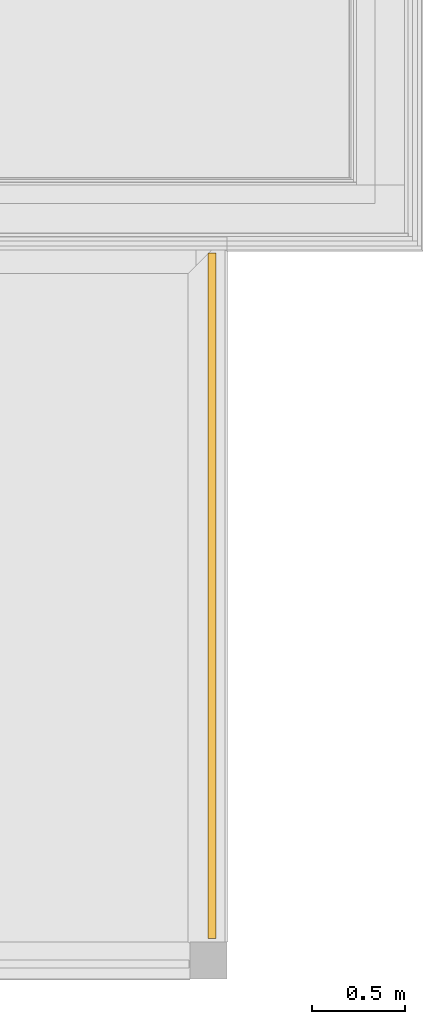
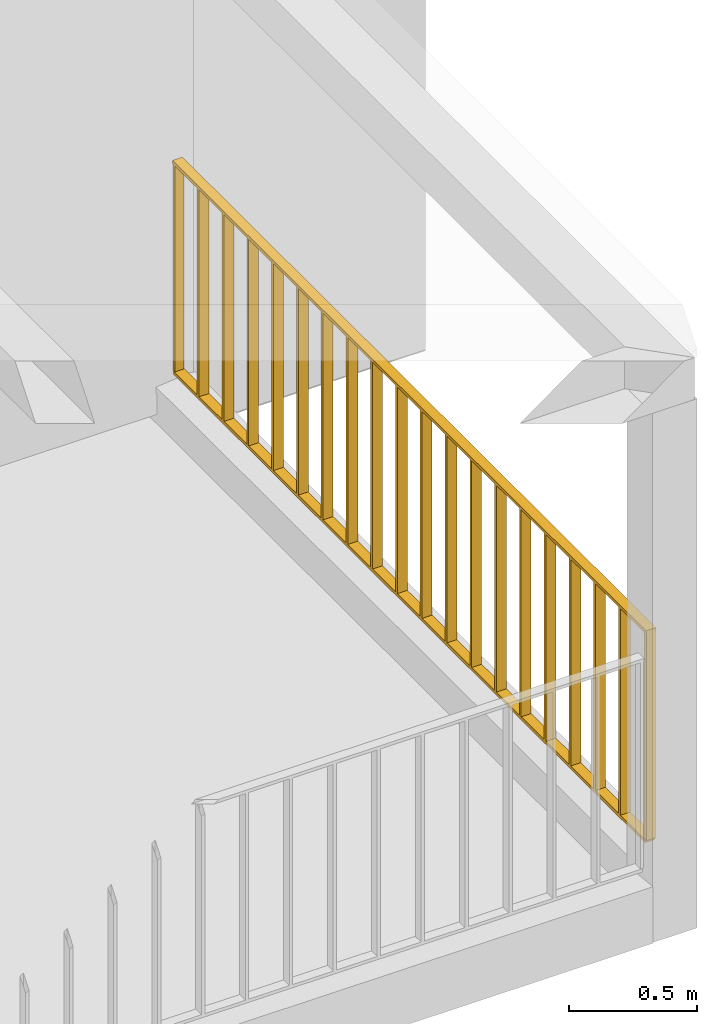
# One storey, part 25 of 34: 1 railing.
"""IFC4 building model written with IfcOpenShell, lengths in millimetres."""

from ifc_helpers import new_model, entity, si_unit, converted_unit, derived_unit, direction, frame, origin_with_axes, place, context, subcontext, project, spatial, polygons, material, constituent, constituent_set, type_object, element, save


model = new_model("IFC4")

# Units and contexts
model_context = context("Model", 3, precision=0.01, world=origin_with_axes(), true_north=direction((0.0, 1.0)))
body_context = subcontext(model_context, "Body", "Model", "MODEL_VIEW")
ifc_project = project(units=[si_unit("LENGTHUNIT", "METRE", prefix="MILLI"), si_unit("AREAUNIT", "SQUARE_METRE"), si_unit("VOLUMEUNIT", "CUBIC_METRE"), converted_unit("PLANEANGLEUNIT", "DEGREE", entity("IfcPlaneAngleMeasure", 0.0174532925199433), si_unit("PLANEANGLEUNIT", "RADIAN"), dimensions=[0, 0, 0, 0, 0, 0, 0]), converted_unit("TIMEUNIT", "Year", entity("IfcTimeMeasure", 31557600.0), si_unit("TIMEUNIT", "SECOND"), dimensions=[0, 0, 1, 0, 0, 0, 0]), si_unit("MASSUNIT", "GRAM", prefix="KILO"), si_unit("THERMODYNAMICTEMPERATUREUNIT", "DEGREE_CELSIUS"), si_unit("LUMINOUSINTENSITYUNIT", "LUMEN"), si_unit("ENERGYUNIT", "JOULE", prefix="MEGA"), derived_unit("THERMALCONDUCTANCEUNIT", [(si_unit("POWERUNIT", "WATT"), 1), (si_unit("LENGTHUNIT", "METRE"), -1), (si_unit("THERMODYNAMICTEMPERATUREUNIT", "KELVIN"), -1)]), derived_unit("SPECIFICHEATCAPACITYUNIT", [(si_unit("ENERGYUNIT", "JOULE"), 1), (si_unit("MASSUNIT", "GRAM", prefix="KILO"), -1), (si_unit("THERMODYNAMICTEMPERATUREUNIT", "KELVIN"), -1)]), derived_unit("MASSDENSITYUNIT", [(si_unit("MASSUNIT", "GRAM", prefix="KILO"), 1), (si_unit("VOLUMEUNIT", "CUBIC_METRE"), -1)])], contexts=[model_context])

# Site, building, storey
site_placement = place(None, origin_with_axes())
site = spatial("IfcSite", under=ifc_project, at=site_placement, Name="Gelände", CompositionType="ELEMENT")
building_placement = place(site_placement, origin_with_axes())
building = spatial("IfcBuilding", under=site, at=building_placement, Name="Gebäude", CompositionType="ELEMENT")
storey_placement = place(building_placement, frame((0.0, 0.0, 5799.999999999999), z_axis=(0.0, 0.0, 1.0), x_axis=(1.0, 0.0, 0.0)))
storey = spatial("IfcBuildingStorey", under=building, at=storey_placement, Name="2.OG", CompositionType="ELEMENT", Elevation=5800.0)

# Railing
ifc_material = material(Name="Stahl")
ifc_constituent_1 = constituent(ifc_material, Name="Stahl 1")
ifc_constituent_2 = constituent(ifc_material, Name="Stahl 2")
ifc_constituent_3 = constituent(ifc_material, Name="Stahl 3")
ifc_constituent_4 = constituent(ifc_material, Name="Stahl 4")
ifc_constituent_5 = constituent(ifc_material, Name="Stahl 5")
ifc_constituent_6 = constituent(ifc_material, Name="Stahl 6")
ifc_constituent_7 = constituent(ifc_material, Name="Stahl 7")
ifc_constituent_8 = constituent(ifc_material, Name="Stahl 8")
ifc_constituent_9 = constituent(ifc_material, Name="Stahl 9")
ifc_constituent_10 = constituent(ifc_material, Name="Stahl 10")
ifc_constituent_11 = constituent(ifc_material, Name="Stahl 11")
ifc_constituent_12 = constituent(ifc_material, Name="Stahl 12")
ifc_constituent_13 = constituent(ifc_material, Name="Stahl 13")
ifc_constituent_14 = constituent(ifc_material, Name="Stahl 14")
ifc_constituent_15 = constituent(ifc_material, Name="Stahl 15")
ifc_constituent_16 = constituent(ifc_material, Name="Stahl 16")
ifc_constituent_17 = constituent(ifc_material, Name="Stahl 17")
ifc_constituent_18 = constituent(ifc_material, Name="Stahl 18")
ifc_constituent_19 = constituent(ifc_material, Name="Stahl 19")
ifc_constituent_20 = constituent(ifc_material, Name="Stahl 20")
ifc_constituent_21 = constituent(ifc_material, Name="Stahl 21")
ifc_constituent_22 = constituent(ifc_material, Name="Stahl 22")
ifc_constituent_23 = constituent(ifc_material, Name="Stahl 23")
ifc_constituent_24 = constituent(ifc_material, Name="Stahl 24")
ifc_constituent_25 = constituent(ifc_material, Name="Stahl 25")
ifc_constituent_26 = constituent(ifc_material, Name="Stahl 26")
ifc_constituent_27 = constituent(ifc_material, Name="Stahl 27")
ifc_constituent_set = constituent_set(constituents=[ifc_constituent_1, ifc_constituent_2, ifc_constituent_3, ifc_constituent_4, ifc_constituent_5, ifc_constituent_6, ifc_constituent_7, ifc_constituent_8, ifc_constituent_9, ifc_constituent_10, ifc_constituent_11, ifc_constituent_12, ifc_constituent_13, ifc_constituent_14, ifc_constituent_15, ifc_constituent_16, ifc_constituent_17, ifc_constituent_18, ifc_constituent_19, ifc_constituent_20, ifc_constituent_21, ifc_constituent_22, ifc_constituent_23, ifc_constituent_24, ifc_constituent_25, ifc_constituent_26, ifc_constituent_27])
railing_type = type_object("IfcRailingType", Name="Geländerart", PredefinedType="NOTDEFINED")
railing_placement = place(storey_placement, frame((31801.65202268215, 8422.597281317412, 819.0765727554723), z_axis=(0.0, 0.0, 1.0), x_axis=(-1.0, 0.0, 0.0)))
element("IfcRailing", 1, at=railing_placement, inside=storey, type_object=railing_type, material=ifc_constituent_set, Name="Geländer-003", PredefinedType="NOTDEFINED", context=body_context, shape_type="Tessellation", body=[
    polygons([(-19.99999999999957, 7.500000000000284, 0.0), (-19.99999999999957, 7.500000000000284, 1000.0), (19.99999999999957, 7.500000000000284, 1000.0), (19.99999999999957, 7.500000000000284, 0.0), (-19.99999999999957, -7.500000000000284, 0.0), (-19.99999999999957, -7.500000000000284, 1000.0), (19.99999999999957, -7.500000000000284, 1000.0), (19.99999999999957, -7.500000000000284, 0.0)], [[[1, 2, 3, 4]], [[5, 6, 2, 1]], [[2, 6, 7, 3]], [[4, 3, 7, 8]], [[1, 4, 8, 5]], [[8, 7, 6, 5]]], closed=True),
    polygons([(-22.50000000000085, 0.0, 1000.0), (-22.50000000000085, 0.0, 985.0000000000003), (-22.50000000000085, -7.500000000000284, 985.0000000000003), (-22.50000000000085, -7.500000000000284, 1000.0), (22.50000000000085, 0.0, 1000.0), (22.50000000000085, 0.0, 985.0000000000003), (22.50000000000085, -7.500000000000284, 985.0000000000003), (22.50000000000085, -7.500000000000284, 1000.0)], [[[1, 2, 3, 4]], [[1, 5, 6, 2]], [[2, 6, 7, 3]], [[4, 3, 7, 8]], [[5, 1, 4, 8]], [[6, 5, 8, 7]]], closed=True),
    polygons([(-19.99999999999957, 3679.941464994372, 0.0), (-19.99999999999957, 3679.941464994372, 1000.0), (19.99999999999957, 3679.941464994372, 1000.0), (19.99999999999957, 3679.941464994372, 0.0), (-19.99999999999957, 3664.941464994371, 0.0), (-19.99999999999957, 3664.941464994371, 1000.0), (19.99999999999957, 3664.941464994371, 1000.0), (19.99999999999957, 3664.941464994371, 0.0)], [[[1, 2, 3, 4]], [[5, 6, 2, 1]], [[2, 6, 7, 3]], [[4, 3, 7, 8]], [[1, 4, 8, 5]], [[8, 7, 6, 5]]], closed=True),
    polygons([(-19.99999999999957, 3686.500000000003, 0.0), (-19.99999999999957, 3686.500000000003, 1000.0), (19.99999999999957, 3686.500000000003, 1000.0), (19.99999999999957, 3686.500000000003, 0.0), (-19.99999999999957, 3671.500000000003, 0.0), (-19.99999999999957, 3671.500000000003, 1000.0), (19.99999999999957, 3671.500000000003, 1000.0), (19.99999999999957, 3671.500000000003, 0.0)], [[[1, 2, 3, 4]], [[5, 6, 2, 1]], [[2, 6, 7, 3]], [[4, 3, 7, 8]], [[1, 4, 8, 5]], [[8, 7, 6, 5]]], closed=True),
    polygons([(22.50000000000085, 3679.000000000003, 1000.0), (22.50000000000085, 3679.000000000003, 985.0000000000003), (22.50000000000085, 3686.500000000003, 985.0000000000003), (22.50000000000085, 3686.500000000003, 1000.0), (-22.50000000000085, 3679.000000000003, 1000.0), (-22.50000000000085, 3679.000000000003, 985.0000000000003), (-22.50000000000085, 3686.500000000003, 985.0000000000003), (-22.50000000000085, 3686.500000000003, 1000.0)], [[[1, 2, 3, 4]], [[1, 5, 6, 2]], [[2, 6, 7, 3]], [[4, 3, 7, 8]], [[5, 1, 4, 8]], [[6, 5, 8, 7]]], closed=True),
    polygons([(22.50000000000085, 0.0, 1.000000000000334), (22.50000000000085, 0.0, -13.99999999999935), (22.50000000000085, 3672.441464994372, -13.99999999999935), (22.50000000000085, 3672.441464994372, 1.000000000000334), (-22.50000000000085, 0.0, 1.000000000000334), (-22.50000000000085, 0.0, -13.99999999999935), (-22.50000000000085, 3672.441464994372, -13.99999999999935), (-22.50000000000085, 3672.441464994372, 1.000000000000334)], [[[1, 2, 3, 4]], [[1, 5, 6, 2]], [[2, 6, 7, 3]], [[4, 3, 7, 8]], [[5, 1, 4, 8]], [[6, 5, 8, 7]]], closed=True),
    polygons([(22.50000000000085, 0.0, 1000.0), (22.50000000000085, 0.0, 985.0000000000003), (22.50000000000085, 3672.441464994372, 985.0000000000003), (22.50000000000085, 3672.441464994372, 1000.0), (-22.50000000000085, 0.0, 1000.0), (-22.50000000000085, 0.0, 985.0000000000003), (-22.50000000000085, 3672.441464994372, 985.0000000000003), (-22.50000000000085, 3672.441464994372, 1000.0)], [[[1, 2, 3, 4]], [[1, 5, 6, 2]], [[2, 6, 7, 3]], [[4, 3, 7, 8]], [[5, 1, 4, 8]], [[6, 5, 8, 7]]], closed=True),
    polygons([(-22.50000000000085, 200.7863928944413, 0.0), (-22.50000000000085, 200.7863928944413, 985.2293691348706), (22.50000000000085, 200.7863928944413, 985.2293691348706), (22.50000000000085, 200.7863928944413, 0.0), (-22.50000000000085, 185.7863928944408, 0.0), (-22.50000000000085, 185.7863928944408, 985.2293691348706), (22.50000000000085, 185.7863928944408, 985.2293691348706), (22.50000000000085, 185.7863928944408, 0.0)], [[[1, 2, 3, 4]], [[5, 6, 2, 1]], [[2, 6, 7, 3]], [[4, 3, 7, 8]], [[1, 4, 8, 5]], [[8, 7, 6, 5]]], closed=True),
    polygons([(-22.50000000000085, 394.0727857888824, 0.0), (-22.50000000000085, 394.0727857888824, 985.2293691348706), (22.50000000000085, 394.0727857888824, 985.2293691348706), (22.50000000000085, 394.0727857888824, 0.0), (-22.50000000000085, 379.0727857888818, 0.0), (-22.50000000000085, 379.0727857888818, 985.2293691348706), (22.50000000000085, 379.0727857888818, 985.2293691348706), (22.50000000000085, 379.0727857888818, 0.0)], [[[1, 2, 3, 4]], [[5, 6, 2, 1]], [[2, 6, 7, 3]], [[4, 3, 7, 8]], [[1, 4, 8, 5]], [[8, 7, 6, 5]]], closed=True),
    polygons([(-22.50000000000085, 587.3591786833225, 0.0), (-22.50000000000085, 587.3591786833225, 985.2293691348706), (22.50000000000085, 587.3591786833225, 985.2293691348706), (22.50000000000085, 587.3591786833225, 0.0), (-22.50000000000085, 572.3591786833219, 0.0), (-22.50000000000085, 572.3591786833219, 985.2293691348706), (22.50000000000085, 572.3591786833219, 985.2293691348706), (22.50000000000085, 572.3591786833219, 0.0)], [[[1, 2, 3, 4]], [[5, 6, 2, 1]], [[2, 6, 7, 3]], [[4, 3, 7, 8]], [[1, 4, 8, 5]], [[8, 7, 6, 5]]], closed=True),
    polygons([(-22.50000000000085, 780.6455715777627, 0.0), (-22.50000000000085, 780.6455715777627, 985.2293691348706), (22.50000000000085, 780.6455715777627, 985.2293691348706), (22.50000000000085, 780.6455715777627, 0.0), (-22.50000000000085, 765.6455715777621, 0.0), (-22.50000000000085, 765.6455715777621, 985.2293691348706), (22.50000000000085, 765.6455715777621, 985.2293691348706), (22.50000000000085, 765.6455715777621, 0.0)], [[[1, 2, 3, 4]], [[5, 6, 2, 1]], [[2, 6, 7, 3]], [[4, 3, 7, 8]], [[1, 4, 8, 5]], [[8, 7, 6, 5]]], closed=True),
    polygons([(-22.50000000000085, 973.9319644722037, 0.0), (-22.50000000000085, 973.9319644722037, 985.2293691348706), (22.50000000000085, 973.9319644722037, 985.2293691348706), (22.50000000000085, 973.9319644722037, 0.0), (-22.50000000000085, 958.9319644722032, 0.0), (-22.50000000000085, 958.9319644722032, 985.2293691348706), (22.50000000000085, 958.9319644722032, 985.2293691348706), (22.50000000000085, 958.9319644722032, 0.0)], [[[1, 2, 3, 4]], [[5, 6, 2, 1]], [[2, 6, 7, 3]], [[4, 3, 7, 8]], [[1, 4, 8, 5]], [[8, 7, 6, 5]]], closed=True),
    polygons([(-22.50000000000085, 1167.218357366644, 0.0), (-22.50000000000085, 1167.218357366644, 985.2293691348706), (22.50000000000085, 1167.218357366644, 985.2293691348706), (22.50000000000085, 1167.218357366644, 0.0), (-22.50000000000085, 1152.218357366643, 0.0), (-22.50000000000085, 1152.218357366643, 985.2293691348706), (22.50000000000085, 1152.218357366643, 985.2293691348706), (22.50000000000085, 1152.218357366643, 0.0)], [[[1, 2, 3, 4]], [[5, 6, 2, 1]], [[2, 6, 7, 3]], [[4, 3, 7, 8]], [[1, 4, 8, 5]], [[8, 7, 6, 5]]], closed=True),
    polygons([(-22.50000000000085, 1360.504750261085, 0.0), (-22.50000000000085, 1360.504750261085, 985.2293691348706), (22.50000000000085, 1360.504750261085, 985.2293691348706), (22.50000000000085, 1360.504750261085, 0.0), (-22.50000000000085, 1345.504750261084, 0.0), (-22.50000000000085, 1345.504750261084, 985.2293691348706), (22.50000000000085, 1345.504750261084, 985.2293691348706), (22.50000000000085, 1345.504750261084, 0.0)], [[[1, 2, 3, 4]], [[5, 6, 2, 1]], [[2, 6, 7, 3]], [[4, 3, 7, 8]], [[1, 4, 8, 5]], [[8, 7, 6, 5]]], closed=True),
    polygons([(-22.50000000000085, 1553.791143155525, 0.0), (-22.50000000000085, 1553.791143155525, 985.2293691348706), (22.50000000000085, 1553.791143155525, 985.2293691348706), (22.50000000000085, 1553.791143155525, 0.0), (-22.50000000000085, 1538.791143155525, 0.0), (-22.50000000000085, 1538.791143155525, 985.2293691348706), (22.50000000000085, 1538.791143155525, 985.2293691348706), (22.50000000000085, 1538.791143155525, 0.0)], [[[1, 2, 3, 4]], [[5, 6, 2, 1]], [[2, 6, 7, 3]], [[4, 3, 7, 8]], [[1, 4, 8, 5]], [[8, 7, 6, 5]]], closed=True),
    polygons([(-22.50000000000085, 1747.077536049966, 0.0), (-22.50000000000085, 1747.077536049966, 985.2293691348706), (22.50000000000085, 1747.077536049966, 985.2293691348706), (22.50000000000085, 1747.077536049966, 0.0), (-22.50000000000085, 1732.077536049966, 0.0), (-22.50000000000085, 1732.077536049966, 985.2293691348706), (22.50000000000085, 1732.077536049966, 985.2293691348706), (22.50000000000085, 1732.077536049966, 0.0)], [[[1, 2, 3, 4]], [[5, 6, 2, 1]], [[2, 6, 7, 3]], [[4, 3, 7, 8]], [[1, 4, 8, 5]], [[8, 7, 6, 5]]], closed=True),
    polygons([(-22.50000000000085, 1940.363928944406, 0.0), (-22.50000000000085, 1940.363928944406, 985.2293691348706), (22.50000000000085, 1940.363928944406, 985.2293691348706), (22.50000000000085, 1940.363928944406, 0.0), (-22.50000000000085, 1925.363928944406, 0.0), (-22.50000000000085, 1925.363928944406, 985.2293691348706), (22.50000000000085, 1925.363928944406, 985.2293691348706), (22.50000000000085, 1925.363928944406, 0.0)], [[[1, 2, 3, 4]], [[5, 6, 2, 1]], [[2, 6, 7, 3]], [[4, 3, 7, 8]], [[1, 4, 8, 5]], [[8, 7, 6, 5]]], closed=True),
    polygons([(-22.50000000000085, 2133.650321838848, 0.0), (-22.50000000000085, 2133.650321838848, 985.2293691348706), (22.50000000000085, 2133.650321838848, 985.2293691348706), (22.50000000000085, 2133.650321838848, 0.0), (-22.50000000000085, 2118.650321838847, 0.0), (-22.50000000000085, 2118.650321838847, 985.2293691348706), (22.50000000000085, 2118.650321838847, 985.2293691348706), (22.50000000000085, 2118.650321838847, 0.0)], [[[1, 2, 3, 4]], [[5, 6, 2, 1]], [[2, 6, 7, 3]], [[4, 3, 7, 8]], [[1, 4, 8, 5]], [[8, 7, 6, 5]]], closed=True),
    polygons([(-22.50000000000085, 2326.936714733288, 0.0), (-22.50000000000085, 2326.936714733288, 985.2293691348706), (22.50000000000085, 2326.936714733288, 985.2293691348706), (22.50000000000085, 2326.936714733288, 0.0), (-22.50000000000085, 2311.936714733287, 0.0), (-22.50000000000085, 2311.936714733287, 985.2293691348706), (22.50000000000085, 2311.936714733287, 985.2293691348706), (22.50000000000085, 2311.936714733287, 0.0)], [[[1, 2, 3, 4]], [[5, 6, 2, 1]], [[2, 6, 7, 3]], [[4, 3, 7, 8]], [[1, 4, 8, 5]], [[8, 7, 6, 5]]], closed=True),
    polygons([(-22.50000000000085, 2520.223107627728, 0.0), (-22.50000000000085, 2520.223107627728, 985.2293691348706), (22.50000000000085, 2520.223107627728, 985.2293691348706), (22.50000000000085, 2520.223107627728, 0.0), (-22.50000000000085, 2505.223107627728, 0.0), (-22.50000000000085, 2505.223107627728, 985.2293691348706), (22.50000000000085, 2505.223107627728, 985.2293691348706), (22.50000000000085, 2505.223107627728, 0.0)], [[[1, 2, 3, 4]], [[5, 6, 2, 1]], [[2, 6, 7, 3]], [[4, 3, 7, 8]], [[1, 4, 8, 5]], [[8, 7, 6, 5]]], closed=True),
    polygons([(-22.50000000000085, 2713.50950052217, 0.0), (-22.50000000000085, 2713.50950052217, 985.2293691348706), (22.50000000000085, 2713.50950052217, 985.2293691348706), (22.50000000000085, 2713.50950052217, 0.0), (-22.50000000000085, 2698.509500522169, 0.0), (-22.50000000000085, 2698.509500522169, 985.2293691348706), (22.50000000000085, 2698.509500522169, 985.2293691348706), (22.50000000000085, 2698.509500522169, 0.0)], [[[1, 2, 3, 4]], [[5, 6, 2, 1]], [[2, 6, 7, 3]], [[4, 3, 7, 8]], [[1, 4, 8, 5]], [[8, 7, 6, 5]]], closed=True),
    polygons([(-22.50000000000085, 2906.79589341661, 0.0), (-22.50000000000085, 2906.79589341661, 985.2293691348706), (22.50000000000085, 2906.79589341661, 985.2293691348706), (22.50000000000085, 2906.79589341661, 0.0), (-22.50000000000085, 2891.795893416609, 0.0), (-22.50000000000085, 2891.795893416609, 985.2293691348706), (22.50000000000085, 2891.795893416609, 985.2293691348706), (22.50000000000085, 2891.795893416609, 0.0)], [[[1, 2, 3, 4]], [[5, 6, 2, 1]], [[2, 6, 7, 3]], [[4, 3, 7, 8]], [[1, 4, 8, 5]], [[8, 7, 6, 5]]], closed=True),
    polygons([(-22.50000000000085, 3100.08228631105, 0.0), (-22.50000000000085, 3100.08228631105, 985.2293691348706), (22.50000000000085, 3100.08228631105, 985.2293691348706), (22.50000000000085, 3100.08228631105, 0.0), (-22.50000000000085, 3085.082286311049, 0.0), (-22.50000000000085, 3085.082286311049, 985.2293691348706), (22.50000000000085, 3085.082286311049, 985.2293691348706), (22.50000000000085, 3085.082286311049, 0.0)], [[[1, 2, 3, 4]], [[5, 6, 2, 1]], [[2, 6, 7, 3]], [[4, 3, 7, 8]], [[1, 4, 8, 5]], [[8, 7, 6, 5]]], closed=True),
    polygons([(-22.50000000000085, 3293.368679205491, 0.0), (-22.50000000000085, 3293.368679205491, 985.2293691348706), (22.50000000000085, 3293.368679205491, 985.2293691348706), (22.50000000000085, 3293.368679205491, 0.0), (-22.50000000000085, 3278.36867920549, 0.0), (-22.50000000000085, 3278.36867920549, 985.2293691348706), (22.50000000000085, 3278.36867920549, 985.2293691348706), (22.50000000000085, 3278.36867920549, 0.0)], [[[1, 2, 3, 4]], [[5, 6, 2, 1]], [[2, 6, 7, 3]], [[4, 3, 7, 8]], [[1, 4, 8, 5]], [[8, 7, 6, 5]]], closed=True),
    polygons([(-22.50000000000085, 3486.655072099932, 0.0), (-22.50000000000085, 3486.655072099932, 985.2293691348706), (22.50000000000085, 3486.655072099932, 985.2293691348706), (22.50000000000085, 3486.655072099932, 0.0), (-22.50000000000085, 3471.655072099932, 0.0), (-22.50000000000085, 3471.655072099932, 985.2293691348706), (22.50000000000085, 3471.655072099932, 985.2293691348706), (22.50000000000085, 3471.655072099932, 0.0)], [[[1, 2, 3, 4]], [[5, 6, 2, 1]], [[2, 6, 7, 3]], [[4, 3, 7, 8]], [[1, 4, 8, 5]], [[8, 7, 6, 5]]], closed=True),
    polygons([(22.50000000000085, 3672.441464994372, 1.000000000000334), (22.50000000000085, 3672.441464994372, -13.99999999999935), (22.50000000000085, 3679.000000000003, -13.99999999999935), (22.50000000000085, 3679.000000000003, 1.000000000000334), (-22.50000000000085, 3672.441464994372, 1.000000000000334), (-22.50000000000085, 3672.441464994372, -13.99999999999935), (-22.50000000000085, 3679.000000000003, -13.99999999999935), (-22.50000000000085, 3679.000000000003, 1.000000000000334)], [[[1, 2, 3, 4]], [[1, 5, 6, 2]], [[2, 6, 7, 3]], [[4, 3, 7, 8]], [[5, 1, 4, 8]], [[6, 5, 8, 7]]], closed=True),
    polygons([(22.50000000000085, 3672.441464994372, 1000.0), (22.50000000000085, 3672.441464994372, 985.0000000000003), (22.50000000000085, 3679.000000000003, 985.0000000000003), (22.50000000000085, 3679.000000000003, 1000.0), (-22.50000000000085, 3672.441464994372, 1000.0), (-22.50000000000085, 3672.441464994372, 985.0000000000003), (-22.50000000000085, 3679.000000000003, 985.0000000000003), (-22.50000000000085, 3679.000000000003, 1000.0)], [[[1, 2, 3, 4]], [[1, 5, 6, 2]], [[2, 6, 7, 3]], [[4, 3, 7, 8]], [[5, 1, 4, 8]], [[6, 5, 8, 7]]], closed=True),
])

save(model, "model.ifc")
